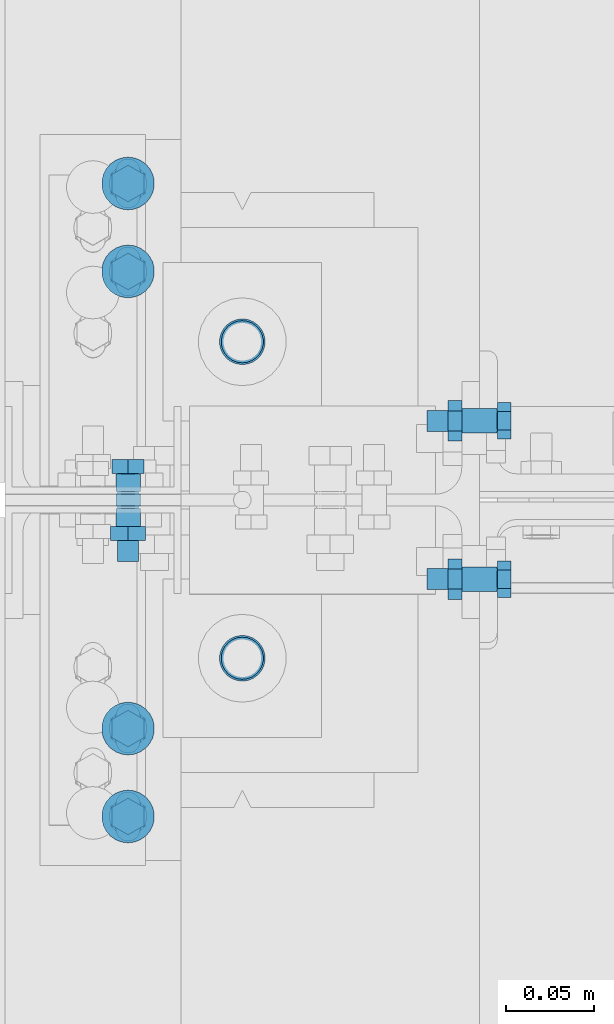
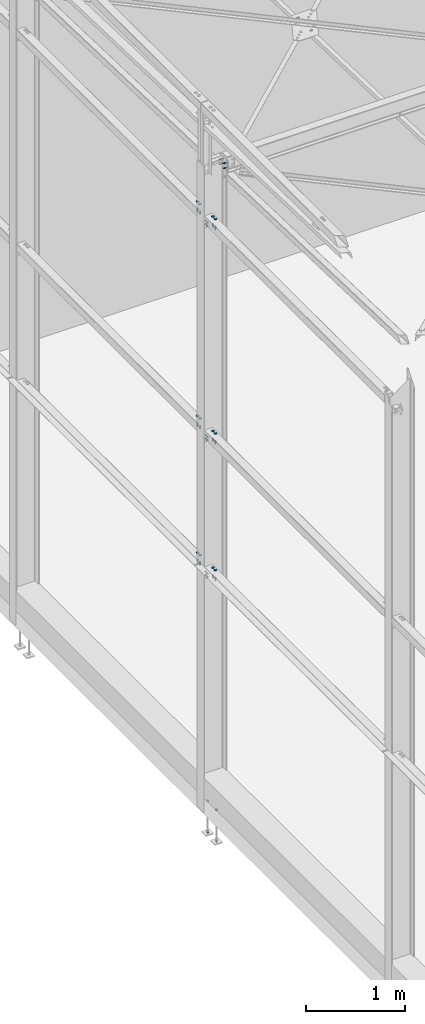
# One storey, part 231 of 362: 23 mechanical fasteners.
"""IFC2X3 building model written with IfcOpenShell, lengths in millimetres."""

from ifc_helpers import new_model, si_unit, frame, frame_2d, origin_with_axes, origin_2d_with_axis, place, context, subcontext, project, spatial, polyline, circle_curve, parameter, trimmed, segment, composite_curve, circle, outline, extrude, source, transform, mapped, material, type_object, element, save


model = new_model("IFC2X3")

# Units and contexts
model_context = context("Model", 3, precision=1e-05, world=origin_with_axes())
body_context = subcontext(model_context, "Body", "Model", "MODEL_VIEW")
ifc_project = project(units=[si_unit("LENGTHUNIT", "METRE", prefix="MILLI"), si_unit("AREAUNIT", "SQUARE_METRE"), si_unit("VOLUMEUNIT", "CUBIC_METRE"), si_unit("MASSUNIT", "GRAM", prefix="KILO"), si_unit("TIMEUNIT", "SECOND"), si_unit("PLANEANGLEUNIT", "RADIAN"), si_unit("SOLIDANGLEUNIT", "STERADIAN"), si_unit("THERMODYNAMICTEMPERATUREUNIT", "DEGREE_CELSIUS"), si_unit("LUMINOUSINTENSITYUNIT", "LUMEN")], contexts=[model_context])

# Site, building, storey
site_placement = place(None, origin_with_axes())
site = spatial("IfcSite", under=ifc_project, at=site_placement, Name="Undefined", CompositionType="ELEMENT")
building_placement = place(site_placement, origin_with_axes())
building = spatial("IfcBuilding", under=site, at=building_placement, Name="Undefined", CompositionType="ELEMENT")
storey_placement = place(building_placement, origin_with_axes())
storey = spatial("IfcBuildingStorey", under=building, at=storey_placement, Name="Undefined", CompositionType="ELEMENT", Elevation=0.0)

# Mechanical fasteners
ifc_material_1 = material(Name="6.8")
mechanical_fastener_type = type_object("IfcMechanicalFastenerType", Name="Bolt assembly")
shared_shape_1 = source(origin_with_axes(), body_context, "Body", "SweptSolid", [
    extrude(circle(Radius=15.0, at=origin_2d_with_axis()), frame((0.0, 0.0, 0.0), z_axis=(0.0, 1.0, 0.0), x_axis=(1.0, 0.0, 0.0)), (0.0, 0.0, 1.0), 4.1),
])
for number, where, z_axis, x_axis, name in (
    (1, (-110.000005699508, 7780.00000097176, 2859.9999839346), (1.0, 0.0, 0.0), (0.0, -1.0, 0.0), "Bolt assembly"),
    (2, (-110.000004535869, 7420.00000097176, 2859.9999839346), (-1.0, 0.0, 0.0), (0.0, 1.0, 0.0), "Bolt assembly"),
    (3, (-110.000005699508, 7780.00000097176, 4549.99998404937), (1.0, 0.0, 0.0), (0.0, -1.0, 0.0), "Bolt assembly"),
    (4, (-110.000004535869, 7420.00000097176, 4549.99998404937), (-1.0, 0.0, 0.0), (0.0, 1.0, 0.0), "Bolt assembly"),
    (5, (-110.000005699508, 7780.00000097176, 7200.0), (1.0, 0.0, 0.0), (0.0, -1.0, 0.0), "Bolt assembly"),
    (6, (-110.000004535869, 7420.00000097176, 7200.0), (-1.0, 0.0, 0.0), (0.0, 1.0, 0.0), "Bolt assembly"),
):
    element("IfcMechanicalFastener", number, at=place(storey_placement, frame(where, z_axis=z_axis, x_axis=x_axis)), inside=storey, type_object=mechanical_fastener_type, material=ifc_material_1, Name=name, NominalDiameter=30.0, NominalLength=4.0, context=body_context, shape_type="MappedRepresentation", body=[
        mapped(shared_shape_1, transform((0.0, 0.0, 0.0))),
        mapped(shared_shape_1, transform((49.9999999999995, 0.0, -3.63797880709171e-12))),
    ])
ifc_material_2 = material(Name="8.8-SB-ZINGUE")
shared_shape_2 = source(origin_with_axes(), body_context, "Body", "SweptSolid", [
    extrude(circle(Radius=7.0, at=origin_2d_with_axis()), frame((0.0, -3.29999884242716, 0.0), z_axis=(0.0, 1.0, 0.0), x_axis=(1.0, 0.0, 0.0)), (0.0, 0.0, 1.0), 6.6),
    extrude(circle(Radius=7.0, at=origin_2d_with_axis()), frame((0.0, 4.9000000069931, 0.0), z_axis=(0.0, 1.0, 0.0), x_axis=(1.0, 0.0, 0.0)), (0.0, 0.0, 1.0), 10.1),
    extrude(circle(Radius=7.0, at=origin_2d_with_axis()), frame((0.0, -14.899999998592, 0.0), z_axis=(0.0, 1.0, 0.0), x_axis=(1.0, 0.0, 0.0)), (0.0, 0.0, 1.0), 10.0),
    extrude(outline(polyline([(10.39230484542, 0.0), (5.19615242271, 9.00000000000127), (-5.19615242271, 9.00000000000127), (-10.39230484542, 0.0), (-5.19615242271, -9.00000000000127), (5.19615242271, -9.00000000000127), (10.39230484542, 0.0)])), frame((0.0, -22.919999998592, 0.0), z_axis=(0.0, 1.0, 0.0), x_axis=(1.0, 0.0, 0.0)), (0.0, 0.0, 1.0), 7.92),
    extrude(circle(Radius=6.0, at=origin_2d_with_axis()), frame((0.0, -14.999999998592, 0.0), z_axis=(0.0, 1.0, 0.0), x_axis=(1.0, 0.0, 0.0)), (0.0, 0.0, 1.0), 50.0),
    extrude(outline(polyline([(11.5008173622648, 0.0), (5.7504086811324, 9.96000000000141), (-5.7504086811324, 9.96000000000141), (-11.5008173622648, 0.0), (-5.7504086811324, -9.96000000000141), (5.7504086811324, -9.96000000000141), (11.5008173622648, 0.0)])), frame((0.0, 15.0000000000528, 0.0), z_axis=(0.0, 1.0, 0.0), x_axis=(1.0, 0.0, 0.0)), (0.0, 0.0, 1.0), 7.92),
])
for number, where, z_axis, x_axis, name in (
    (7, (-110.000007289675, 7599.99999839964, 2679.9999839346), (1.0, 0.0, 0.0), (0.0, 0.0, 1.0), "Bolt assembly"),
    (8, (-110.000007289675, 7599.99999839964, 4369.99998404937), (1.0, 0.0, 0.0), (0.0, 0.0, 1.0), "Bolt assembly"),
    (9, (-110.000007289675, 7599.99999839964, 7020.0), (1.0, 0.0, 0.0), (0.0, 0.0, 1.0), "Bolt assembly"),
):
    element("IfcMechanicalFastener", number, at=place(storey_placement, frame(where, z_axis=z_axis, x_axis=x_axis)), inside=storey, type_object=mechanical_fastener_type, material=ifc_material_2, Name=name, NominalDiameter=12.0, NominalLength=50.0, context=body_context, shape_type="MappedRepresentation", body=[
        mapped(shared_shape_2, transform((0.0, 0.0, 0.0))),
        mapped(shared_shape_2, transform((40.0, 0.0, 0.0))),
    ])
shared_shape_3 = source(origin_with_axes(), body_context, "Body", "SweptSolid", [
    extrude(circle(Radius=7.0, at=origin_2d_with_axis()), frame((0.0, -3.89999843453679, 0.0), z_axis=(0.0, 1.0, 0.0), x_axis=(1.0, 0.0, 0.0)), (0.0, 0.0, 1.0), 4.0),
    extrude(outline(composite_curve([segment(polyline([(-7.0, 7.0), (7.0, 7.0)]), True, "CONTINUOUS"), segment(trimmed(circle_curve(frame_2d((7.0, 0.0), x_axis=(0.0, 1.0)), 7.0), [parameter(0.0)], [parameter(3.14159265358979)], False, "PARAMETER"), True, "CONTINUOUS"), segment(polyline([(7.0, -7.0), (-7.0, -7.0)]), True, "CONTINUOUS"), segment(trimmed(circle_curve(frame_2d((-7.0, 0.0), x_axis=(0.0, -1.0)), 7.0), [parameter(0.0)], [parameter(3.14159265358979)], False, "PARAMETER"), True, "DISCONTINUOUS")], self_intersect=False)), frame((0.0, -0.100011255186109, 0.0), z_axis=(0.0, 1.0, 0.0), x_axis=(1.0, 0.0, 0.0)), (0.0, 0.0, 1.0), 10.1),
    extrude(outline(polyline([(10.39230484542, 0.0), (5.19615242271, 9.00000000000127), (-5.19615242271, 9.00000000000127), (-10.39230484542, 0.0), (-5.19615242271, -9.00000000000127), (5.19615242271, -9.00000000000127), (10.39230484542, 0.0)])), frame((0.0, -11.9199984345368, 0.0), z_axis=(0.0, 1.0, 0.0), x_axis=(1.0, 0.0, 0.0)), (0.0, 0.0, 1.0), 7.92),
    extrude(circle(Radius=6.0, at=origin_2d_with_axis()), frame((0.0, -3.99999923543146, 0.0), z_axis=(0.0, 1.0, 0.0), x_axis=(1.0, 0.0, 0.0)), (0.0, 0.0, 1.0), 40.0),
    extrude(circle(Radius=10.8, at=origin_2d_with_axis()), frame((0.0, 10.0000000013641, 0.0), z_axis=(0.0, 1.0, 0.0), x_axis=(1.0, 0.0, 0.0)), (0.0, 0.0, 1.0), 3.96),
    extrude(outline(polyline([(11.5008173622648, 0.0), (5.7504086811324, 9.96000000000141), (-5.7504086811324, 9.96000000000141), (-11.5008173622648, 0.0), (-5.7504086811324, -9.96000000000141), (5.7504086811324, -9.96000000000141), (11.5008173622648, 0.0)])), frame((0.0, 13.96, 0.0), z_axis=(0.0, 1.0, 0.0), x_axis=(1.0, 0.0, 0.0)), (0.0, 0.0, 1.0), 7.92),
])
mechanical_fastener_1_placement = place(storey_placement, frame((-110.00000569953, 7780.00000097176, 2759.9999839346), z_axis=(1.0, 0.0, 0.0), x_axis=(0.0, -1.0, 0.0)))
element("IfcMechanicalFastener", 10, at=mechanical_fastener_1_placement, inside=storey, type_object=mechanical_fastener_type, material=ifc_material_2, Name="Bolt assembly", NominalDiameter=12.0, NominalLength=40.0, context=body_context, shape_type="MappedRepresentation", body=[
    mapped(shared_shape_3, transform((0.0, 0.0, 0.0))),
    mapped(shared_shape_3, transform((49.9999999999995, 0.0, -3.63797880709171e-12))),
])
shared_shape_4 = source(origin_with_axes(), body_context, "Body", "SweptSolid", [
    extrude(circle(Radius=7.0, at=origin_2d_with_axis()), frame((0.0, -3.89999843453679, 0.0), z_axis=(0.0, 1.0, 0.0), x_axis=(1.0, 0.0, 0.0)), (0.0, 0.0, 1.0), 4.0),
    extrude(outline(composite_curve([segment(polyline([(-7.0, 7.0), (7.0, 7.0)]), True, "CONTINUOUS"), segment(trimmed(circle_curve(frame_2d((7.0, 0.0), x_axis=(0.0, 1.0)), 7.0), [parameter(0.0)], [parameter(3.14159265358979)], False, "PARAMETER"), True, "CONTINUOUS"), segment(polyline([(7.0, -7.0), (-7.0, -7.0)]), True, "CONTINUOUS"), segment(trimmed(circle_curve(frame_2d((-7.0, 0.0), x_axis=(0.0, -1.0)), 7.0), [parameter(0.0)], [parameter(3.14159265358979)], False, "PARAMETER"), True, "DISCONTINUOUS")], self_intersect=False)), frame((0.0, -0.100011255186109, 0.0), z_axis=(0.0, 1.0, 0.0), x_axis=(1.0, 0.0, 0.0)), (0.0, 0.0, 1.0), 10.1),
    extrude(outline(polyline([(10.39230484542, 0.0), (5.19615242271, 9.00000000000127), (-5.19615242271, 9.00000000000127), (-10.39230484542, 0.0), (-5.19615242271, -9.00000000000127), (5.19615242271, -9.00000000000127), (10.39230484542, 0.0)])), frame((0.0, -11.9199984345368, 0.0), z_axis=(0.0, 1.0, 0.0), x_axis=(1.0, 0.0, 0.0)), (0.0, 0.0, 1.0), 7.92),
    extrude(circle(Radius=6.0, at=origin_2d_with_axis()), frame((0.0, -3.99999923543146, 0.0), z_axis=(0.0, 1.0, 0.0), x_axis=(1.0, 0.0, 0.0)), (0.0, 0.0, 1.0), 40.0),
    extrude(circle(Radius=10.8, at=origin_2d_with_axis()), frame((0.0, 10.0000000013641, 0.0), z_axis=(0.0, 1.0, 0.0), x_axis=(1.0, 0.0, 0.0)), (0.0, 0.0, 1.0), 3.96),
    extrude(outline(polyline([(11.5008173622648, 0.0), (5.7504086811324, 9.96000000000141), (-5.7504086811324, 9.96000000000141), (-11.5008173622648, 0.0), (-5.7504086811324, -9.96000000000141), (5.7504086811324, -9.96000000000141), (11.5008173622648, 0.0)])), frame((0.0, 13.96, 0.0), z_axis=(0.0, 1.0, 0.0), x_axis=(1.0, 0.0, 0.0)), (0.0, 0.0, 1.0), 7.92),
])
mechanical_fastener_2_placement = place(storey_placement, frame((-110.000004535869, 7420.00000097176, 2759.9999839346), z_axis=(-1.0, 0.0, 0.0), x_axis=(0.0, 1.0, 0.0)))
element("IfcMechanicalFastener", 11, at=mechanical_fastener_2_placement, inside=storey, type_object=mechanical_fastener_type, material=ifc_material_2, Name="Bolt assembly", NominalDiameter=12.0, NominalLength=40.0, context=body_context, shape_type="MappedRepresentation", body=[
    mapped(shared_shape_4, transform((0.0, 0.0, 0.0))),
    mapped(shared_shape_4, transform((49.9999999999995, 0.0, -3.63797880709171e-12))),
])
shared_shape_5 = source(origin_with_axes(), body_context, "Body", "SweptSolid", [
    extrude(circle(Radius=7.0, at=origin_2d_with_axis()), frame((0.0, -3.89999843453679, 0.0), z_axis=(0.0, 1.0, 0.0), x_axis=(1.0, 0.0, 0.0)), (0.0, 0.0, 1.0), 4.0),
    extrude(outline(composite_curve([segment(polyline([(-7.0, 7.0), (7.0, 7.0)]), True, "CONTINUOUS"), segment(trimmed(circle_curve(frame_2d((7.0, 0.0), x_axis=(0.0, 1.0)), 7.0), [parameter(0.0)], [parameter(3.14159265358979)], False, "PARAMETER"), True, "CONTINUOUS"), segment(polyline([(7.0, -7.0), (-7.0, -7.0)]), True, "CONTINUOUS"), segment(trimmed(circle_curve(frame_2d((-7.0, 0.0), x_axis=(0.0, -1.0)), 7.0), [parameter(0.0)], [parameter(3.14159265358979)], False, "PARAMETER"), True, "DISCONTINUOUS")], self_intersect=False)), frame((0.0, -0.100011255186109, 0.0), z_axis=(0.0, 1.0, 0.0), x_axis=(1.0, 0.0, 0.0)), (0.0, 0.0, 1.0), 10.1),
    extrude(outline(polyline([(10.39230484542, 0.0), (5.19615242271, 9.00000000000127), (-5.19615242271, 9.00000000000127), (-10.39230484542, 0.0), (-5.19615242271, -9.00000000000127), (5.19615242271, -9.00000000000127), (10.39230484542, 0.0)])), frame((0.0, -11.9199984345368, 0.0), z_axis=(0.0, 1.0, 0.0), x_axis=(1.0, 0.0, 0.0)), (0.0, 0.0, 1.0), 7.92),
    extrude(circle(Radius=6.0, at=origin_2d_with_axis()), frame((0.0, -3.99999923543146, 0.0), z_axis=(0.0, 1.0, 0.0), x_axis=(1.0, 0.0, 0.0)), (0.0, 0.0, 1.0), 40.0),
    extrude(circle(Radius=10.8, at=origin_2d_with_axis()), frame((0.0, 10.0000000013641, 0.0), z_axis=(0.0, 1.0, 0.0), x_axis=(1.0, 0.0, 0.0)), (0.0, 0.0, 1.0), 3.96),
    extrude(outline(polyline([(11.5008173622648, 0.0), (5.7504086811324, 9.96000000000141), (-5.7504086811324, 9.96000000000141), (-11.5008173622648, 0.0), (-5.7504086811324, -9.96000000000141), (5.7504086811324, -9.96000000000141), (11.5008173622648, 0.0)])), frame((0.0, 13.96, 0.0), z_axis=(0.0, 1.0, 0.0), x_axis=(1.0, 0.0, 0.0)), (0.0, 0.0, 1.0), 7.92),
])
mechanical_fastener_3_placement = place(storey_placement, frame((-110.00000569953, 7780.00000097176, 4449.99998404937), z_axis=(1.0, 0.0, 0.0), x_axis=(0.0, -1.0, 0.0)))
element("IfcMechanicalFastener", 12, at=mechanical_fastener_3_placement, inside=storey, type_object=mechanical_fastener_type, material=ifc_material_2, Name="Bolt assembly", NominalDiameter=12.0, NominalLength=40.0, context=body_context, shape_type="MappedRepresentation", body=[
    mapped(shared_shape_5, transform((0.0, 0.0, 0.0))),
    mapped(shared_shape_5, transform((49.9999999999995, 0.0, -3.63797880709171e-12))),
])
shared_shape_6 = source(origin_with_axes(), body_context, "Body", "SweptSolid", [
    extrude(circle(Radius=7.0, at=origin_2d_with_axis()), frame((0.0, -3.89999843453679, 0.0), z_axis=(0.0, 1.0, 0.0), x_axis=(1.0, 0.0, 0.0)), (0.0, 0.0, 1.0), 4.0),
    extrude(outline(composite_curve([segment(polyline([(-7.0, 7.0), (7.0, 7.0)]), True, "CONTINUOUS"), segment(trimmed(circle_curve(frame_2d((7.0, 0.0), x_axis=(0.0, 1.0)), 7.0), [parameter(0.0)], [parameter(3.14159265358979)], False, "PARAMETER"), True, "CONTINUOUS"), segment(polyline([(7.0, -7.0), (-7.0, -7.0)]), True, "CONTINUOUS"), segment(trimmed(circle_curve(frame_2d((-7.0, 0.0), x_axis=(0.0, -1.0)), 7.0), [parameter(0.0)], [parameter(3.14159265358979)], False, "PARAMETER"), True, "DISCONTINUOUS")], self_intersect=False)), frame((0.0, -0.100011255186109, 0.0), z_axis=(0.0, 1.0, 0.0), x_axis=(1.0, 0.0, 0.0)), (0.0, 0.0, 1.0), 10.1),
    extrude(outline(polyline([(10.39230484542, 0.0), (5.19615242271, 9.00000000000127), (-5.19615242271, 9.00000000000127), (-10.39230484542, 0.0), (-5.19615242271, -9.00000000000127), (5.19615242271, -9.00000000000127), (10.39230484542, 0.0)])), frame((0.0, -11.9199984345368, 0.0), z_axis=(0.0, 1.0, 0.0), x_axis=(1.0, 0.0, 0.0)), (0.0, 0.0, 1.0), 7.92),
    extrude(circle(Radius=6.0, at=origin_2d_with_axis()), frame((0.0, -3.99999923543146, 0.0), z_axis=(0.0, 1.0, 0.0), x_axis=(1.0, 0.0, 0.0)), (0.0, 0.0, 1.0), 40.0),
    extrude(circle(Radius=10.8, at=origin_2d_with_axis()), frame((0.0, 10.0000000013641, 0.0), z_axis=(0.0, 1.0, 0.0), x_axis=(1.0, 0.0, 0.0)), (0.0, 0.0, 1.0), 3.96),
    extrude(outline(polyline([(11.5008173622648, 0.0), (5.7504086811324, 9.96000000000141), (-5.7504086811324, 9.96000000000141), (-11.5008173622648, 0.0), (-5.7504086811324, -9.96000000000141), (5.7504086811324, -9.96000000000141), (11.5008173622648, 0.0)])), frame((0.0, 13.96, 0.0), z_axis=(0.0, 1.0, 0.0), x_axis=(1.0, 0.0, 0.0)), (0.0, 0.0, 1.0), 7.92),
])
mechanical_fastener_4_placement = place(storey_placement, frame((-110.000004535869, 7420.00000097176, 4449.99998404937), z_axis=(-1.0, 0.0, 0.0), x_axis=(0.0, 1.0, 0.0)))
element("IfcMechanicalFastener", 13, at=mechanical_fastener_4_placement, inside=storey, type_object=mechanical_fastener_type, material=ifc_material_2, Name="Bolt assembly", NominalDiameter=12.0, NominalLength=40.0, context=body_context, shape_type="MappedRepresentation", body=[
    mapped(shared_shape_6, transform((0.0, 0.0, 0.0))),
    mapped(shared_shape_6, transform((49.9999999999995, 0.0, -3.63797880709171e-12))),
])
shared_shape_7 = source(origin_with_axes(), body_context, "Body", "SweptSolid", [
    extrude(circle(Radius=7.0, at=origin_2d_with_axis()), frame((0.0, -3.89999843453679, 0.0), z_axis=(0.0, 1.0, 0.0), x_axis=(1.0, 0.0, 0.0)), (0.0, 0.0, 1.0), 4.0),
    extrude(outline(composite_curve([segment(polyline([(-7.0, 7.0), (7.0, 7.0)]), True, "CONTINUOUS"), segment(trimmed(circle_curve(frame_2d((7.0, 0.0), x_axis=(0.0, 1.0)), 7.0), [parameter(0.0)], [parameter(3.14159265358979)], False, "PARAMETER"), True, "CONTINUOUS"), segment(polyline([(7.0, -7.0), (-7.0, -7.0)]), True, "CONTINUOUS"), segment(trimmed(circle_curve(frame_2d((-7.0, 0.0), x_axis=(0.0, -1.0)), 7.0), [parameter(0.0)], [parameter(3.14159265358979)], False, "PARAMETER"), True, "DISCONTINUOUS")], self_intersect=False)), frame((0.0, -0.100011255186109, 0.0), z_axis=(0.0, 1.0, 0.0), x_axis=(1.0, 0.0, 0.0)), (0.0, 0.0, 1.0), 10.1),
    extrude(outline(polyline([(10.39230484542, 0.0), (5.19615242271, 9.00000000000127), (-5.19615242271, 9.00000000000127), (-10.39230484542, 0.0), (-5.19615242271, -9.00000000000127), (5.19615242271, -9.00000000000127), (10.39230484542, 0.0)])), frame((0.0, -11.9199984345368, 0.0), z_axis=(0.0, 1.0, 0.0), x_axis=(1.0, 0.0, 0.0)), (0.0, 0.0, 1.0), 7.92),
    extrude(circle(Radius=6.0, at=origin_2d_with_axis()), frame((0.0, -3.99999923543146, 0.0), z_axis=(0.0, 1.0, 0.0), x_axis=(1.0, 0.0, 0.0)), (0.0, 0.0, 1.0), 40.0),
    extrude(circle(Radius=10.8, at=origin_2d_with_axis()), frame((0.0, 10.0000000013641, 0.0), z_axis=(0.0, 1.0, 0.0), x_axis=(1.0, 0.0, 0.0)), (0.0, 0.0, 1.0), 3.96),
    extrude(outline(polyline([(11.5008173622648, 0.0), (5.7504086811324, 9.96000000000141), (-5.7504086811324, 9.96000000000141), (-11.5008173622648, 0.0), (-5.7504086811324, -9.96000000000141), (5.7504086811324, -9.96000000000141), (11.5008173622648, 0.0)])), frame((0.0, 13.96, 0.0), z_axis=(0.0, 1.0, 0.0), x_axis=(1.0, 0.0, 0.0)), (0.0, 0.0, 1.0), 7.92),
])
mechanical_fastener_5_placement = place(storey_placement, frame((-110.00000569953, 7780.00000097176, 7100.0), z_axis=(1.0, 0.0, 0.0), x_axis=(0.0, -1.0, 0.0)))
element("IfcMechanicalFastener", 14, at=mechanical_fastener_5_placement, inside=storey, type_object=mechanical_fastener_type, material=ifc_material_2, Name="Bolt assembly", NominalDiameter=12.0, NominalLength=40.0, context=body_context, shape_type="MappedRepresentation", body=[
    mapped(shared_shape_7, transform((0.0, 0.0, 0.0))),
    mapped(shared_shape_7, transform((49.9999999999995, 0.0, -3.63797880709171e-12))),
])
shared_shape_8 = source(origin_with_axes(), body_context, "Body", "SweptSolid", [
    extrude(circle(Radius=7.0, at=origin_2d_with_axis()), frame((0.0, -3.89999843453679, 0.0), z_axis=(0.0, 1.0, 0.0), x_axis=(1.0, 0.0, 0.0)), (0.0, 0.0, 1.0), 4.0),
    extrude(outline(composite_curve([segment(polyline([(-7.0, 7.0), (7.0, 7.0)]), True, "CONTINUOUS"), segment(trimmed(circle_curve(frame_2d((7.0, 0.0), x_axis=(0.0, 1.0)), 7.0), [parameter(0.0)], [parameter(3.14159265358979)], False, "PARAMETER"), True, "CONTINUOUS"), segment(polyline([(7.0, -7.0), (-7.0, -7.0)]), True, "CONTINUOUS"), segment(trimmed(circle_curve(frame_2d((-7.0, 0.0), x_axis=(0.0, -1.0)), 7.0), [parameter(0.0)], [parameter(3.14159265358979)], False, "PARAMETER"), True, "DISCONTINUOUS")], self_intersect=False)), frame((0.0, -0.100011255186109, 0.0), z_axis=(0.0, 1.0, 0.0), x_axis=(1.0, 0.0, 0.0)), (0.0, 0.0, 1.0), 10.1),
    extrude(outline(polyline([(10.39230484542, 0.0), (5.19615242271, 9.00000000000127), (-5.19615242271, 9.00000000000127), (-10.39230484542, 0.0), (-5.19615242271, -9.00000000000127), (5.19615242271, -9.00000000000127), (10.39230484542, 0.0)])), frame((0.0, -11.9199984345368, 0.0), z_axis=(0.0, 1.0, 0.0), x_axis=(1.0, 0.0, 0.0)), (0.0, 0.0, 1.0), 7.92),
    extrude(circle(Radius=6.0, at=origin_2d_with_axis()), frame((0.0, -3.99999923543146, 0.0), z_axis=(0.0, 1.0, 0.0), x_axis=(1.0, 0.0, 0.0)), (0.0, 0.0, 1.0), 40.0),
    extrude(circle(Radius=10.8, at=origin_2d_with_axis()), frame((0.0, 10.0000000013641, 0.0), z_axis=(0.0, 1.0, 0.0), x_axis=(1.0, 0.0, 0.0)), (0.0, 0.0, 1.0), 3.96),
    extrude(outline(polyline([(11.5008173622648, 0.0), (5.7504086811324, 9.96000000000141), (-5.7504086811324, 9.96000000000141), (-11.5008173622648, 0.0), (-5.7504086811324, -9.96000000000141), (5.7504086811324, -9.96000000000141), (11.5008173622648, 0.0)])), frame((0.0, 13.96, 0.0), z_axis=(0.0, 1.0, 0.0), x_axis=(1.0, 0.0, 0.0)), (0.0, 0.0, 1.0), 7.92),
])
mechanical_fastener_6_placement = place(storey_placement, frame((-110.000004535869, 7420.00000097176, 7100.0), z_axis=(-1.0, 0.0, 0.0), x_axis=(0.0, 1.0, 0.0)))
element("IfcMechanicalFastener", 15, at=mechanical_fastener_6_placement, inside=storey, type_object=mechanical_fastener_type, material=ifc_material_2, Name="Bolt assembly", NominalDiameter=12.0, NominalLength=40.0, context=body_context, shape_type="MappedRepresentation", body=[
    mapped(shared_shape_8, transform((0.0, 0.0, 0.0))),
    mapped(shared_shape_8, transform((49.9999999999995, 0.0, -3.63797880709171e-12))),
])
shared_shape_9 = source(origin_with_axes(), body_context, "Body", "SweptSolid", [
    extrude(circle(Radius=7.0, at=origin_2d_with_axis()), frame((0.0, -0.100011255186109, 0.0), z_axis=(0.0, 1.0, 0.0), x_axis=(1.0, 0.0, 0.0)), (0.0, 0.0, 1.0), 10.3),
    extrude(circle(Radius=7.0, at=origin_2d_with_axis()), frame((0.0, -9.9, 0.0), z_axis=(0.0, 1.0, 0.0), x_axis=(1.0, 0.0, 0.0)), (0.0, 0.0, 1.0), 10.0),
    extrude(outline(polyline([(10.39230484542, 0.0), (5.19615242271, 9.00000000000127), (-5.19615242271, 9.00000000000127), (-10.39230484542, 0.0), (-5.19615242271, -9.00000000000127), (5.19615242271, -9.00000000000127), (10.39230484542, 0.0)])), frame((0.0, -17.92, 0.0), z_axis=(0.0, 1.0, 0.0), x_axis=(1.0, 0.0, 0.0)), (0.0, 0.0, 1.0), 7.92),
    extrude(circle(Radius=6.0, at=origin_2d_with_axis()), frame((0.0, -10.0000010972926, 0.0), z_axis=(0.0, 1.0, 0.0), x_axis=(1.0, 0.0, 0.0)), (0.0, 0.0, 1.0), 40.0),
    extrude(outline(polyline([(11.5008173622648, 0.0), (5.7504086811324, 9.96000000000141), (-5.7504086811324, 9.96000000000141), (-11.5008173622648, 0.0), (-5.7504086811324, -9.96000000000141), (5.7504086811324, -9.96000000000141), (11.5008173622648, 0.0)])), frame((0.0, 10.1999997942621, 0.0), z_axis=(0.0, 1.0, 0.0), x_axis=(1.0, 0.0, 0.0)), (0.0, 0.0, 1.0), 7.92),
])
for number, where, z_axis, x_axis, name in (
    (16, (89.9999986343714, 7645.00000000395, 7739.70982306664), (0.0, 0.0, 1.0), (0.0, 1.0, 0.0), "Bolt assembly"),
    (17, (89.9999986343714, 7645.00000000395, 7679.68020120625), (0.0, 0.0, 1.0), (0.0, 1.0, 0.0), "Bolt assembly"),
    (18, (89.9999986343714, 7555.00000000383, 7682.50860651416), (0.0, 0.0, -1.0), (0.0, -1.0, 0.0), "Bolt assembly"),
    (19, (89.9999986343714, 7555.00000000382, 7742.53822837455), (0.0, 0.0, -1.0), (0.0, -1.0, 0.0), "Bolt assembly"),
):
    element("IfcMechanicalFastener", number, at=place(storey_placement, frame(where, z_axis=z_axis, x_axis=x_axis)), inside=storey, type_object=mechanical_fastener_type, material=ifc_material_2, Name=name, NominalDiameter=12.0, NominalLength=40.0, context=body_context, shape_type="MappedRepresentation", body=[
        mapped(shared_shape_9, transform((0.0, 0.0, 0.0))),
    ])
shared_shape_10 = source(origin_with_axes(), body_context, "Body", "SweptSolid", [
    extrude(circle(Radius=13.0, at=origin_2d_with_axis()), frame((0.0, -14.999999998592, 0.0), z_axis=(0.0, 1.0, 0.0), x_axis=(1.0, 0.0, 0.0)), (0.0, 0.0, 1.0), 15.1),
])
for number, where, z_axis, x_axis, name in (
    (20, (-45.0, 7509.99715044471, -185.0), (1.0, 0.0, 0.0), (0.0, -1.0, 0.0), "Bolt assembly"),
    (21, (-45.0, 7689.99715044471, -185.0), (1.0, 0.0, 0.0), (0.0, -1.0, 0.0), "Bolt assembly"),
):
    element("IfcMechanicalFastener", number, at=place(storey_placement, frame(where, z_axis=z_axis, x_axis=x_axis)), inside=storey, type_object=mechanical_fastener_type, material=ifc_material_1, Name=name, NominalDiameter=24.0, NominalLength=15.0, context=body_context, shape_type="MappedRepresentation", body=[
        mapped(shared_shape_10, transform((0.0, 0.0, 0.0))),
    ])
shared_shape_11 = source(origin_with_axes(), body_context, "Body", "SweptSolid", [
    extrude(circle(Radius=12.0, at=origin_2d_with_axis()), frame((0.0, -14.999999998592, 0.0), z_axis=(0.0, 1.0, 0.0), x_axis=(1.0, 0.0, 0.0)), (0.0, 0.0, 1.0), 15.1),
])
for number, where, z_axis, x_axis, name in (
    (22, (-45.0, 7509.99715044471, -580.0), (1.0, 0.0, 0.0), (0.0, -1.0, 0.0), "Bolt assembly"),
    (23, (-45.0, 7689.99715044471, -580.0), (1.0, 0.0, 0.0), (0.0, -1.0, 0.0), "Bolt assembly"),
):
    element("IfcMechanicalFastener", number, at=place(storey_placement, frame(where, z_axis=z_axis, x_axis=x_axis)), inside=storey, type_object=mechanical_fastener_type, material=ifc_material_1, Name=name, NominalDiameter=22.0, NominalLength=15.0, context=body_context, shape_type="MappedRepresentation", body=[
        mapped(shared_shape_11, transform((0.0, 0.0, 0.0))),
    ])

save(model, "model.ifc")
